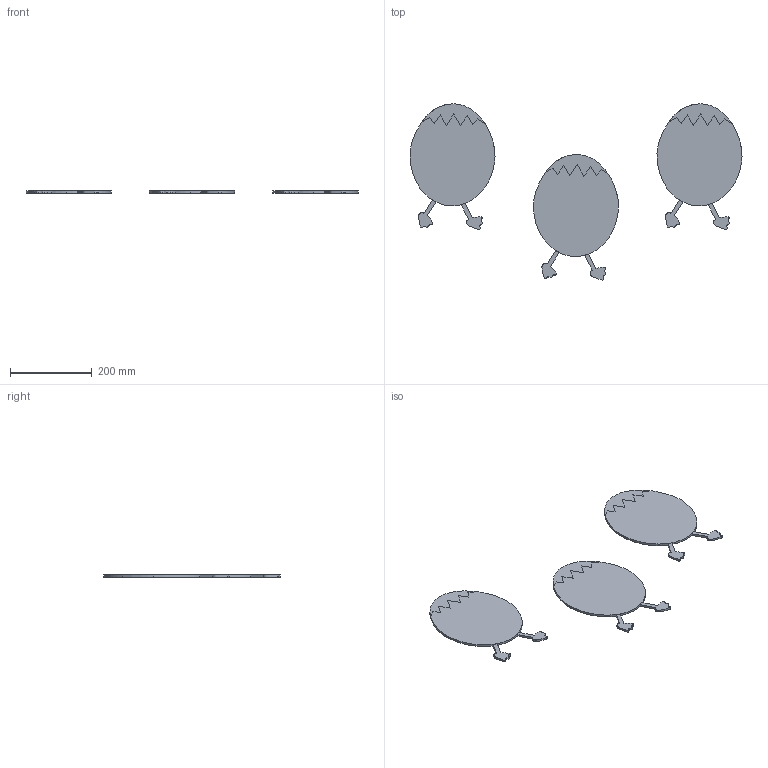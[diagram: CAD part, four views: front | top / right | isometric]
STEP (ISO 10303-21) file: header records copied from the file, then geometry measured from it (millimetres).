
FILE_DESCRIPTION (( 'STEP AP203' ), '1' );
FILE_NAME ('MA.DC30035-B.STEP', '2022-04-21T13:54:30', ( '' ), ( '' ), 'SwSTEP 2.0', 'SolidWorks 2021', '' );
FILE_SCHEMA (( 'CONFIG_CONTROL_DESIGN' ));
Length unit declared in the file: millimetre
Products named in the file (1): MA.DC30035-B
Bounding box: 813.26 x 431.67 x 5 mm (x, y, z)
Volume: 642296.6 mm3; surface area: 273578.9 mm2
Topology: 9 solids, 9 shells, 99 faces, 270 edges, 189 vertices
Faces by surface type: bspline 48, plane 33, cylinder 18
Entity records: 3767 total; most frequent: CARTESIAN_POINT 1513, ORIENTED_EDGE 540, DIRECTION 308, EDGE_CURVE 270, VERTEX_POINT 189, LINE 132, VECTOR 132, ADVANCED_FACE 99
